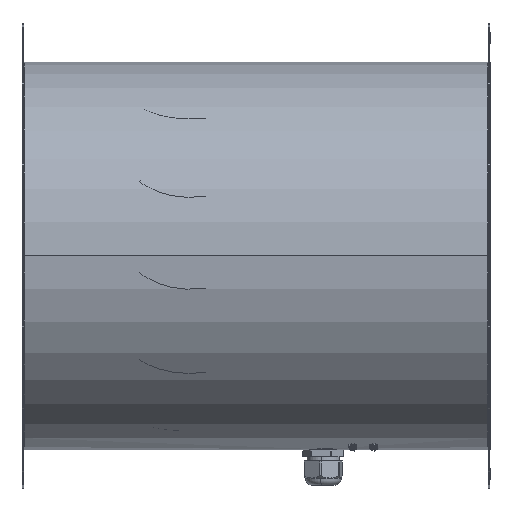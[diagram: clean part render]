
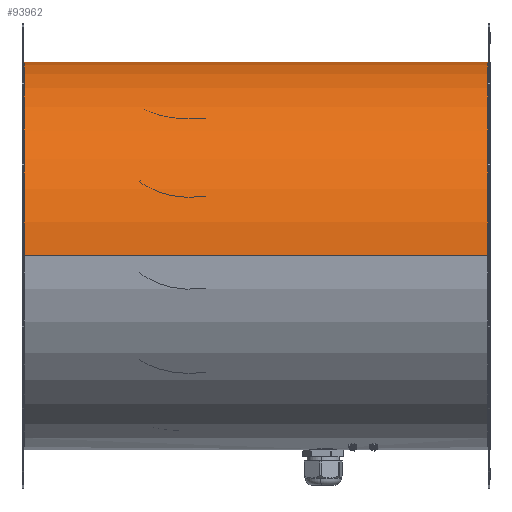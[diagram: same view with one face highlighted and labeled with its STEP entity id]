
A CAD part, top view. The second image highlights one B-rep face of the part: STEP entity #93962.
In plain terms, the highlighted cylindrical face has radius 158.75 mm (diameter 317.5 mm), a partial arc.
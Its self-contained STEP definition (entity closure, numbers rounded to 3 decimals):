
#1405 = DIRECTION ( 'NONE',  ( 0., 0., 1. ) ) ;
#1443 = EDGE_CURVE ( 'NONE', #227896, #73771, #162271, .T. ) ;
#1834 = VERTEX_POINT ( 'NONE', #10245 ) ;
#3113 = VERTEX_POINT ( 'NONE', #7516 ) ;
#7516 = CARTESIAN_POINT ( 'NONE',  ( -109.125, 0., -158.75 ) ) ;
#9638 = CARTESIAN_POINT ( 'NONE',  ( 269.5, 0., -158.75 ) ) ;
#10245 = CARTESIAN_POINT ( 'NONE',  ( 270.125, 0., -158.75 ) ) ;
#10991 = CARTESIAN_POINT ( 'NONE',  ( 269.5, 3.024, -158.721 ) ) ;
#14384 = EDGE_CURVE ( 'NONE', #174719, #226009, #161543, .T. ) ;
#15546 = EDGE_CURVE ( 'NONE', #109658, #53481, #183174, .T. ) ;
#16700 = DIRECTION ( 'NONE',  ( 1., 0., 0. ) ) ;
#18266 = DIRECTION ( 'NONE',  ( 0., 0., 1. ) ) ;
#19102 = VERTEX_POINT ( 'NONE', #64243 ) ;
#29366 = CARTESIAN_POINT ( 'NONE',  ( 270.125, 0., 0. ) ) ;
#30562 = AXIS2_PLACEMENT_3D ( 'NONE', #29366, #167937, #49315 ) ;
#31853 = ORIENTED_EDGE ( 'NONE', *, *, #1443, .T. ) ;
#32201 = EDGE_CURVE ( 'NONE', #19102, #174719, #154359, .T. ) ;
#38354 = CIRCLE ( 'NONE', #230166, 158.75 ) ;
#40379 = VECTOR ( 'NONE', #182047, 1000. ) ;
#43310 = CARTESIAN_POINT ( 'NONE',  ( 269.5, 0., 0. ) ) ;
#46258 = CARTESIAN_POINT ( 'NONE',  ( 270.125, 0., 158.75 ) ) ;
#47074 = DIRECTION ( 'NONE',  ( 1., 0., 0. ) ) ;
#49315 = DIRECTION ( 'NONE',  ( 0., 0., 1. ) ) ;
#53158 = CARTESIAN_POINT ( 'NONE',  ( -108.5, 0., -158.75 ) ) ;
#53481 = VERTEX_POINT ( 'NONE', #245628 ) ;
#56157 = VECTOR ( 'NONE', #47074, 1000. ) ;
#57572 = VECTOR ( 'NONE', #16700, 1000. ) ;
#61288 = CYLINDRICAL_SURFACE ( 'NONE', #92039, 158.75 ) ;
#61875 = EDGE_LOOP ( 'NONE', ( #109330, #103015, #31853, #235811, #239891, #256457, #230573, #216910, #223641, #234554 ) ) ;
#63260 = DIRECTION ( 'NONE',  ( 0., 0., 1. ) ) ;
#64243 = CARTESIAN_POINT ( 'NONE',  ( -108.5, 3., -158.722 ) ) ;
#72578 = CARTESIAN_POINT ( 'NONE',  ( -108.5, 0., 0. ) ) ;
#73762 = FACE_OUTER_BOUND ( 'NONE', #61875, .T. ) ;
#73771 = VERTEX_POINT ( 'NONE', #46258 ) ;
#79265 = EDGE_CURVE ( 'NONE', #3113, #212850, #198455, .T. ) ;
#79737 = DIRECTION ( 'NONE',  ( 1., 0., 0. ) ) ;
#81459 = CARTESIAN_POINT ( 'NONE',  ( 269.5, 0., 0. ) ) ;
#91678 = EDGE_CURVE ( 'NONE', #1834, #73771, #222583, .T. ) ;
#92039 = AXIS2_PLACEMENT_3D ( 'NONE', #140053, #159980, #1405 ) ;
#92452 = DIRECTION ( 'NONE',  ( 0., 0., 1. ) ) ;
#93962 = ADVANCED_FACE ( 'NONE', ( #73762 ), #61288, .T. ) ;
#94988 = CARTESIAN_POINT ( 'NONE',  ( -109.125, 0., 158.75 ) ) ;
#101358 = DIRECTION ( 'NONE',  ( 0., 0., 1. ) ) ;
#103015 = ORIENTED_EDGE ( 'NONE', *, *, #171409, .T. ) ;
#103729 = AXIS2_PLACEMENT_3D ( 'NONE', #81459, #220026, #101358 ) ;
#105383 = EDGE_CURVE ( 'NONE', #109658, #1834, #162959, .T. ) ;
#107285 = EDGE_CURVE ( 'NONE', #212850, #19102, #231027, .T. ) ;
#109330 = ORIENTED_EDGE ( 'NONE', *, *, #79265, .F. ) ;
#109577 = VECTOR ( 'NONE', #79737, 1000. ) ;
#109658 = VERTEX_POINT ( 'NONE', #9638 ) ;
#118079 = CARTESIAN_POINT ( 'NONE',  ( -108.5, 0., 0. ) ) ;
#122781 = CARTESIAN_POINT ( 'NONE',  ( -108.5, 3.024, -158.721 ) ) ;
#136935 = DIRECTION ( 'NONE',  ( 1., 0., 0. ) ) ;
#138003 = DIRECTION ( 'NONE',  ( 0., 0., 1. ) ) ;
#140053 = CARTESIAN_POINT ( 'NONE',  ( -108.5, 0., 0. ) ) ;
#154359 = CIRCLE ( 'NONE', #193615, 158.75 ) ;
#159980 = DIRECTION ( 'NONE',  ( 1., 0., 0. ) ) ;
#161543 = LINE ( 'NONE', #165710, #56157 ) ;
#162141 = CARTESIAN_POINT ( 'NONE',  ( -108.5, 0., -158.75 ) ) ;
#162271 = LINE ( 'NONE', #172455, #109577 ) ;
#162959 = LINE ( 'NONE', #194265, #57572 ) ;
#165710 = CARTESIAN_POINT ( 'NONE',  ( -108.5, 3.024, -158.721 ) ) ;
#167937 = DIRECTION ( 'NONE',  ( 1., 0., 0. ) ) ;
#171409 = EDGE_CURVE ( 'NONE', #3113, #227896, #38354, .T. ) ;
#172455 = CARTESIAN_POINT ( 'NONE',  ( -108.5, 0., 158.75 ) ) ;
#173029 = CIRCLE ( 'NONE', #198251, 158.75 ) ;
#174719 = VERTEX_POINT ( 'NONE', #122781 ) ;
#181869 = DIRECTION ( 'NONE',  ( 1., 0., 0. ) ) ;
#182047 = DIRECTION ( 'NONE',  ( 1., 0., 0. ) ) ;
#183174 = CIRCLE ( 'NONE', #103729, 158.75 ) ;
#193615 = AXIS2_PLACEMENT_3D ( 'NONE', #72578, #211111, #92452 ) ;
#194265 = CARTESIAN_POINT ( 'NONE',  ( -108.5, 0., -158.75 ) ) ;
#198251 = AXIS2_PLACEMENT_3D ( 'NONE', #43310, #181869, #63260 ) ;
#198455 = LINE ( 'NONE', #162141, #40379 ) ;
#211111 = DIRECTION ( 'NONE',  ( 1., 0., 0. ) ) ;
#212850 = VERTEX_POINT ( 'NONE', #53158 ) ;
#216910 = ORIENTED_EDGE ( 'NONE', *, *, #14384, .F. ) ;
#220026 = DIRECTION ( 'NONE',  ( 1., 0., 0. ) ) ;
#222583 = CIRCLE ( 'NONE', #30562, 158.75 ) ;
#223641 = ORIENTED_EDGE ( 'NONE', *, *, #32201, .F. ) ;
#226009 = VERTEX_POINT ( 'NONE', #10991 ) ;
#227896 = VERTEX_POINT ( 'NONE', #94988 ) ;
#230166 = AXIS2_PLACEMENT_3D ( 'NONE', #255611, #136935, #18266 ) ;
#230573 = ORIENTED_EDGE ( 'NONE', *, *, #240818, .T. ) ;
#231027 = CIRCLE ( 'NONE', #244960, 158.75 ) ;
#234554 = ORIENTED_EDGE ( 'NONE', *, *, #107285, .F. ) ;
#235811 = ORIENTED_EDGE ( 'NONE', *, *, #91678, .F. ) ;
#239891 = ORIENTED_EDGE ( 'NONE', *, *, #105383, .F. ) ;
#240818 = EDGE_CURVE ( 'NONE', #53481, #226009, #173029, .T. ) ;
#244960 = AXIS2_PLACEMENT_3D ( 'NONE', #118079, #256679, #138003 ) ;
#245628 = CARTESIAN_POINT ( 'NONE',  ( 269.5, 3., -158.722 ) ) ;
#255611 = CARTESIAN_POINT ( 'NONE',  ( -109.125, 0., 0. ) ) ;
#256457 = ORIENTED_EDGE ( 'NONE', *, *, #15546, .T. ) ;
#256679 = DIRECTION ( 'NONE',  ( 1., 0., 0. ) ) ;
